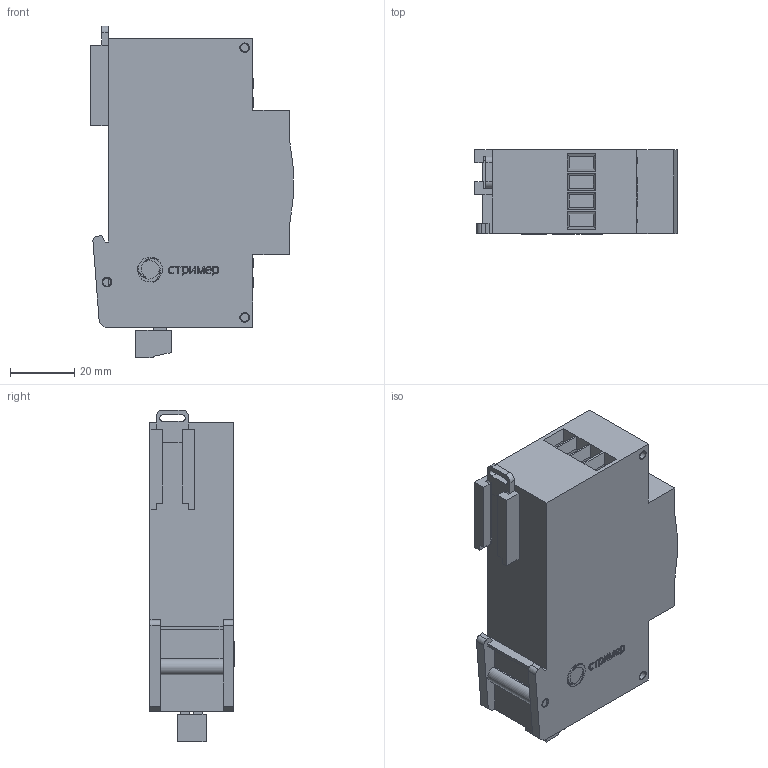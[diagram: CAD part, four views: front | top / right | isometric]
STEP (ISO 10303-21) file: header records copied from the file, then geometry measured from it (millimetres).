
FILE_DESCRIPTION(('TFLEX Exchange Step'),'2;1');
FILE_NAME('X2\041004400442\X0\.201.001.stp', '2022-08-30T14:21:50+03:00',('Ivan Berdigulov'),('Unknown organisation'),'TFLEX Exchange 2019.2','T-FLEX CAD','Unknown authorisation');
FILE_SCHEMA( ('AUTOMOTIVE_DESIGN { 1 0 10303 214 1 1 1 1 }') );
Length unit declared in the file: millimetre
Products named in the file (2): 0
Assembly tree (1 placements, depth 2):
  0
    0
Bounding box: 63.17 x 26.2 x 103.35 mm (x, y, z)
Volume: 120313.4 mm3; surface area: 22779.7 mm2
Topology: 44 solids, 49 shells, 702 faces, 1731 edges, 1162 vertices
Faces by surface type: plane 441, bspline 181, cylinder 52, torus 18, cone 10
Full cylindrical faces by diameter (mm): 1.6 x2, 2 x4, 2.5 x8, 3 x12, 4 x8
Entity records: 24942 total; most frequent: CARTESIAN_POINT 9833, ORIENTED_EDGE 3402, DIRECTION 2383, EDGE_CURVE 1701, VERTEX_POINT 1162, VECTOR 907, LINE 907, EDGE_LOOP 795
